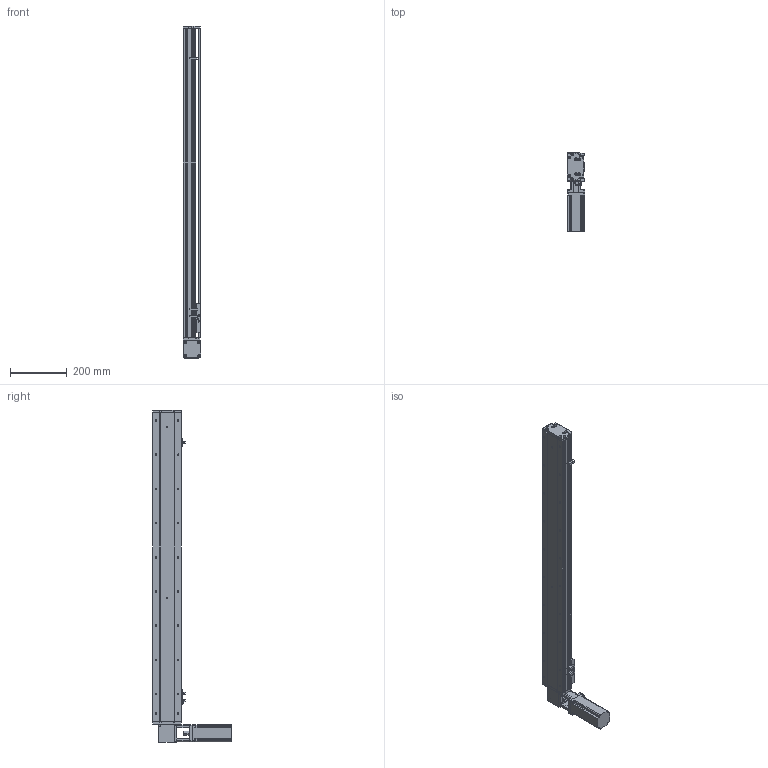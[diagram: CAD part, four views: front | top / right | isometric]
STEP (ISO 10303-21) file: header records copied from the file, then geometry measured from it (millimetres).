
FILE_DESCRIPTION (( 'STEP AP214' ), '1' );
FILE_NAME ('KSD100B-S900-MLT-CM.STEP', '2019-10-26T05:53:01', ( '微软用户' ), ( '微软中国' ), 'SwSTEP 2.0', 'SolidWorks 2014', '' );
FILE_SCHEMA (( 'AUTOMOTIVE_DESIGN' ));
Length unit declared in the file: millimetre
Products named in the file (12): 100宽安装板同步带带电机座400W,86; 100遵鎮湛假蚾啣1 ; 100宽防尘板900行程-同步带; U倰嫖萇EEㄜSX672; 覜茼え100遵圉猾敕; 台达ECMA－C20604AS伺服电机; 100宽马达安装板同步带右; 100宽同步带安装板半封闭; 100宽马达安装板同步带; 100遵傷啣肮祭湍; 100宽底板半封闭同步带900行程; KSD100B-S900-MLT-CM
Assembly tree (13 placements, depth 2):
  KSD100B-S900-MLT-CM
    100宽底板半封闭同步带900行程
    100遵傷啣肮祭湍
    100宽马达安装板同步带
    100宽同步带安装板半封闭
    100宽马达安装板同步带右
    台达ECMA－C20604AS伺服电机
    覜茼え100遵圉猾敕
    U倰嫖萇EEㄜSX672  x3
    100宽防尘板900行程-同步带
    100遵鎮湛假蚾啣1 
    100宽安装板同步带带电机座400W,86
Bounding box: 61 x 275 x 1165 mm (x, y, z)
Volume: 2674070.5 mm3; surface area: 863878 mm2
Topology: 14 solids, 14 shells, 1440 faces, 4049 edges, 2577 vertices
Faces by surface type: cylinder 734, plane 575, cone 131
Entity records: 50485 total; most frequent: CARTESIAN_POINT 10166, DIRECTION 7029, ORIENTED_EDGE 6742, EDGE_CURVE 3371, AXIS2_PLACEMENT_3D 2586, VERTEX_POINT 2201, LINE 1857, VECTOR 1857
